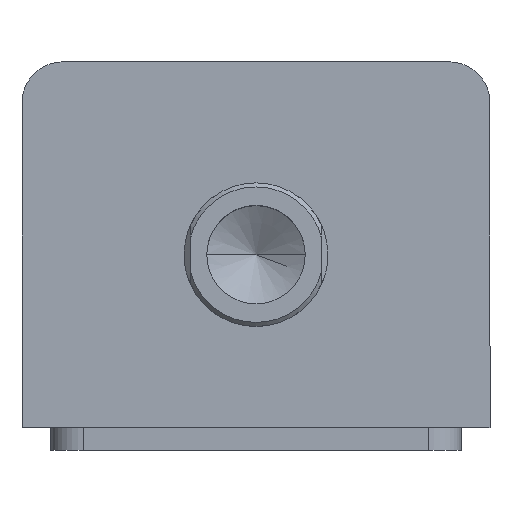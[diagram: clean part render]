
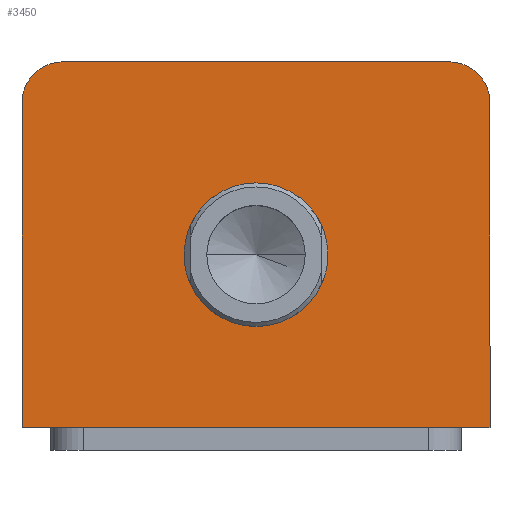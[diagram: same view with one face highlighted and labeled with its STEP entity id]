
A CAD part, top view. The second image highlights one B-rep face of the part: STEP entity #3450.
In plain terms, the highlighted planar face has unit normal (0, 0, 1).
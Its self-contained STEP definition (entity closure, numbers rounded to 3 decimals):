
#188 = CARTESIAN_POINT ( 'NONE',  ( 57., 44.5, 107. ) ) ;
#189 = DIRECTION ( 'NONE',  ( 0., 1., 0. ) ) ;
#195 = CARTESIAN_POINT ( 'NONE',  ( 0., -2.5, 107. ) ) ;
#196 = DIRECTION ( 'NONE',  ( 0., 0., 1. ) ) ;
#197 = DIRECTION ( 'NONE',  ( 1., 0., 0. ) ) ;
#369 = CARTESIAN_POINT ( 'NONE',  ( 47., 44.5, 107. ) ) ;
#380 = CIRCLE ( 'NONE', #2854, 10. ) ;
#386 = LINE ( 'NONE', #3166, #389 ) ;
#389 = VECTOR ( 'NONE', #3167, 1000. ) ;
#546 = EDGE_LOOP ( 'NONE', ( #1033, #1034 ) ) ;
#924 = EDGE_LOOP ( 'NONE', ( #1035, #1036, #1037, #1038, #1039, #1040 ) ) ;
#1033 = ORIENTED_EDGE ( 'NONE', *, *, #2890, .F. ) ;
#1034 = ORIENTED_EDGE ( 'NONE', *, *, #3097, .F. ) ;
#1035 = ORIENTED_EDGE ( 'NONE', *, *, #2933, .T. ) ;
#1036 = ORIENTED_EDGE ( 'NONE', *, *, #2954, .T. ) ;
#1037 = ORIENTED_EDGE ( 'NONE', *, *, #2958, .T. ) ;
#1038 = ORIENTED_EDGE ( 'NONE', *, *, #2889, .T. ) ;
#1039 = ORIENTED_EDGE ( 'NONE', *, *, #3094, .T. ) ;
#1040 = ORIENTED_EDGE ( 'NONE', *, *, #2945, .T. ) ;
#1106 = FACE_BOUND ( 'NONE', #546, .T. ) ;
#1112 = FACE_OUTER_BOUND ( 'NONE', #924, .T. ) ;
#1404 = VERTEX_POINT ( 'NONE', #2541 ) ;
#1456 = VERTEX_POINT ( 'NONE', #369 ) ;
#1506 = CARTESIAN_POINT ( 'NONE',  ( 0., 0., 107. ) ) ;
#1508 = PLANE ( 'NONE',  #3465 ) ;
#1513 = DIRECTION ( 'NONE',  ( 0., 0., 1. ) ) ;
#1514 = DIRECTION ( 'NONE',  ( 1., 0., 0. ) ) ;
#1667 = CARTESIAN_POINT ( 'NONE',  ( -47., 44.5, 107. ) ) ;
#1677 = CARTESIAN_POINT ( 'NONE',  ( 17.5, -2.5, 107. ) ) ;
#1680 = CARTESIAN_POINT ( 'NONE',  ( -17.5, -2.5, 107. ) ) ;
#1682 = CARTESIAN_POINT ( 'NONE',  ( 57., 34.5, 107. ) ) ;
#1699 = CARTESIAN_POINT ( 'NONE',  ( 57., -44.5, 107. ) ) ;
#1702 = CARTESIAN_POINT ( 'NONE',  ( -57., -44.5, 107. ) ) ;
#1812 = LINE ( 'NONE', #188, #1815 ) ;
#1815 = VECTOR ( 'NONE', #189, 1000. ) ;
#1818 = CIRCLE ( 'NONE', #3580, 17.5 ) ;
#1893 = DIRECTION ( 'NONE',  ( -1., 0., 0. ) ) ;
#1895 = CARTESIAN_POINT ( 'NONE',  ( -57., 44.5, 107. ) ) ;
#1929 = CARTESIAN_POINT ( 'NONE',  ( 47., 34.5, 107. ) ) ;
#1930 = DIRECTION ( 'NONE',  ( 0., 0., 1. ) ) ;
#1931 = DIRECTION ( 'NONE',  ( 1., 0., 0. ) ) ;
#2195 = VERTEX_POINT ( 'NONE', #1667 ) ;
#2206 = VERTEX_POINT ( 'NONE', #1677 ) ;
#2209 = VERTEX_POINT ( 'NONE', #1680 ) ;
#2211 = VERTEX_POINT ( 'NONE', #1682 ) ;
#2228 = VERTEX_POINT ( 'NONE', #1699 ) ;
#2231 = VERTEX_POINT ( 'NONE', #1702 ) ;
#2541 = CARTESIAN_POINT ( 'NONE',  ( -57., 34.5, 107. ) ) ;
#2646 = VECTOR ( 'NONE', #2745, 1000. ) ;
#2649 = CIRCLE ( 'NONE', #2886, 17.5 ) ;
#2652 = LINE ( 'NONE', #2743, #2646 ) ;
#2719 = LINE ( 'NONE', #1895, #2721 ) ;
#2721 = VECTOR ( 'NONE', #1893, 1000. ) ;
#2733 = CIRCLE ( 'NONE', #2861, 10. ) ;
#2743 = CARTESIAN_POINT ( 'NONE',  ( -57., -44.5, 107. ) ) ;
#2745 = DIRECTION ( 'NONE',  ( 1., 0., 0. ) ) ;
#2748 = CARTESIAN_POINT ( 'NONE',  ( 0., -2.5, 107. ) ) ;
#2749 = DIRECTION ( 'NONE',  ( 0., 0., 1. ) ) ;
#2750 = DIRECTION ( 'NONE',  ( 1., 0., 0. ) ) ;
#2854 = AXIS2_PLACEMENT_3D ( 'NONE', #3156, #3157, #3158 ) ;
#2861 = AXIS2_PLACEMENT_3D ( 'NONE', #1929, #1930, #1931 ) ;
#2886 = AXIS2_PLACEMENT_3D ( 'NONE', #2748, #2749, #2750 ) ;
#2889 = EDGE_CURVE ( 'NONE', #2231, #2228, #2652, .T. ) ;
#2890 = EDGE_CURVE ( 'NONE', #2206, #2209, #2649, .T. ) ;
#2933 = EDGE_CURVE ( 'NONE', #1456, #2195, #2719, .T. ) ;
#2945 = EDGE_CURVE ( 'NONE', #2211, #1456, #2733, .T. ) ;
#2954 = EDGE_CURVE ( 'NONE', #2195, #1404, #380, .T. ) ;
#2958 = EDGE_CURVE ( 'NONE', #1404, #2231, #386, .T. ) ;
#3094 = EDGE_CURVE ( 'NONE', #2228, #2211, #1812, .T. ) ;
#3097 = EDGE_CURVE ( 'NONE', #2209, #2206, #1818, .T. ) ;
#3156 = CARTESIAN_POINT ( 'NONE',  ( -47., 34.5, 107. ) ) ;
#3157 = DIRECTION ( 'NONE',  ( 0., 0., 1. ) ) ;
#3158 = DIRECTION ( 'NONE',  ( 1., 0., 0. ) ) ;
#3166 = CARTESIAN_POINT ( 'NONE',  ( -57., 44.5, 107. ) ) ;
#3167 = DIRECTION ( 'NONE',  ( 0., -1., 0. ) ) ;
#3450 = ADVANCED_FACE ( 'NONE', ( #1106, #1112 ), #1508, .T. ) ;
#3465 = AXIS2_PLACEMENT_3D ( 'NONE', #1506, #1513, #1514 ) ;
#3580 = AXIS2_PLACEMENT_3D ( 'NONE', #195, #196, #197 ) ;
